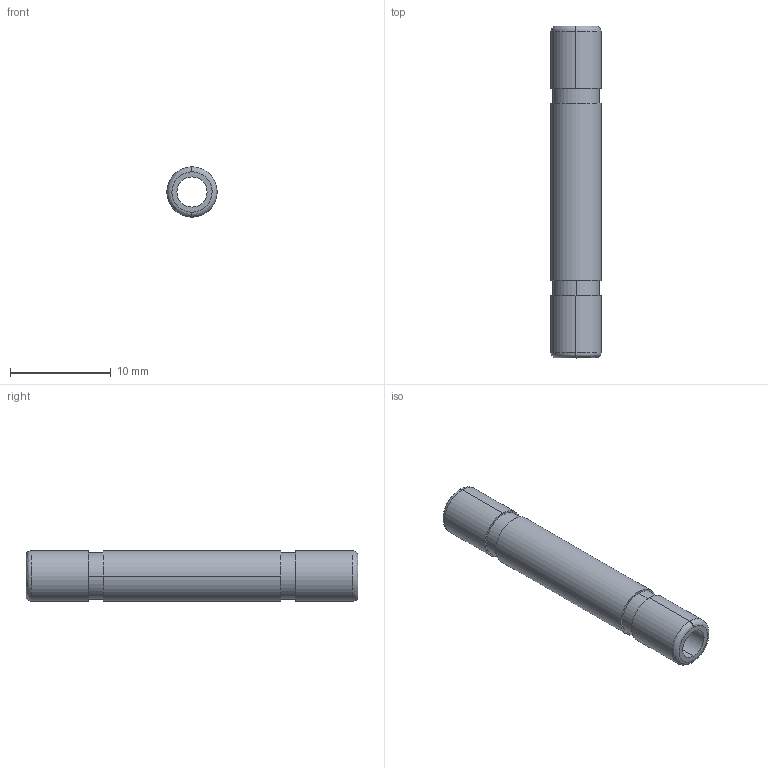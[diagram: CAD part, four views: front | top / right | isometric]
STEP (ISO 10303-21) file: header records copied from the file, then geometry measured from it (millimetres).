
FILE_DESCRIPTION (( 'STEP AP214' ), '1' );
FILE_NAME ('506250001X300A.STEP', '2016-09-05T14:28:41', ( '' ), ( '' ), 'SwSTEP 2.0', 'SolidWorks 2016', '' );
FILE_SCHEMA (( 'AUTOMOTIVE_DESIGN' ));
Length unit declared in the file: millimetre
Products named in the file (2): 506250001X300A
Bounding box: 5 x 33 x 5 mm (x, y, z)
Volume: 404.5 mm3; surface area: 855.9 mm2
Topology: 1 solids, 1 shells, 22 faces, 44 edges, 28 vertices
Faces by surface type: cylinder 12, plane 6, bspline 4
Entity records: 969 total; most frequent: CARTESIAN_POINT 468, DIRECTION 100, ORIENTED_EDGE 88, EDGE_CURVE 44, AXIS2_PLACEMENT_3D 44, EDGE_LOOP 28, VERTEX_POINT 28, CIRCLE 24
